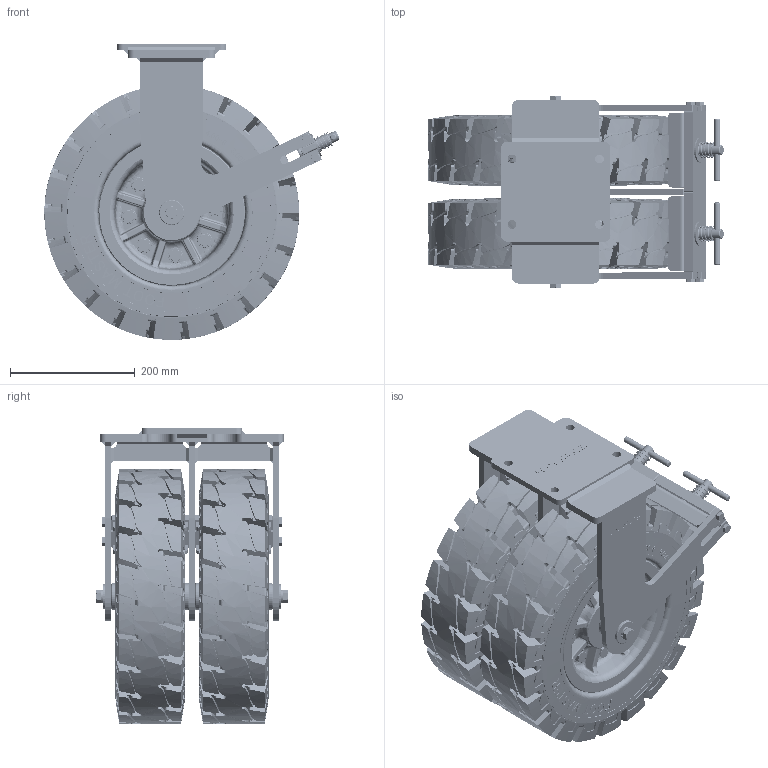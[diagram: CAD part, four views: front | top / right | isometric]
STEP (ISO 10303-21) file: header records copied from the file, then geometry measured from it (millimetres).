
FILE_DESCRIPTION(/* description */ (''),/* implementation_level */ '2;1');
FILE_NAME(/* name */ '\\192.168.10.38\지덕공유\1.기술연구소\2.연구개발 진행중\121.Solidtire caster_2024.11.22\제품설계\홈페이지용 도면\3D\GT-400\88.GTD-400-BRF-TRD.stp',/* time_stamp */ '2025-09-19T13:47:37+09:00',/* author */ ('admin'),/* organization */ (''),/* preprocessor_version */ 'ST-DEVELOPER v18.1',/* originating_system */ 'Autodesk Inventor 2021',/* authorisation */ '');
FILE_SCHEMA (('AUTOMOTIVE_DESIGN { 1 0 10303 214 3 1 1 }'));
Products named in the file (1): 88.GTD-400-BRF-TIRE-Rev01_2025.09.18_Shrinkwrap_1
Bounding box: 472.82 x 307 x 473.42 mm (x, y, z)
Volume: 26215198.2 mm3; surface area: 1621747.9 mm2
Topology: 3 solids, 3 shells, 7086 faces, 19558 edges, 12841 vertices
Faces by surface type: bspline 2515, plane 2124, cylinder 1347, cone 692, torus 408
Full cylindrical faces by diameter (mm): 1 x2, 10.2 x2, 12 x16, 14 x4, 16 x4, 18.5 x16, 20 x2, 24 x18, 40 x4, 42.7 x4, 258.997 x4, 317.998 x4, 333.998 x4, 336.998 x4
Entity records: 350545 total; most frequent: CARTESIAN_POINT 189811, ORIENTED_EDGE 39116, DIRECTION 21367, EDGE_CURVE 19558, VERTEX_POINT 12841, B_SPLINE_CURVE_WITH_KNOTS 9046, AXIS2_PLACEMENT_3D 7773, EDGE_LOOP 7503
